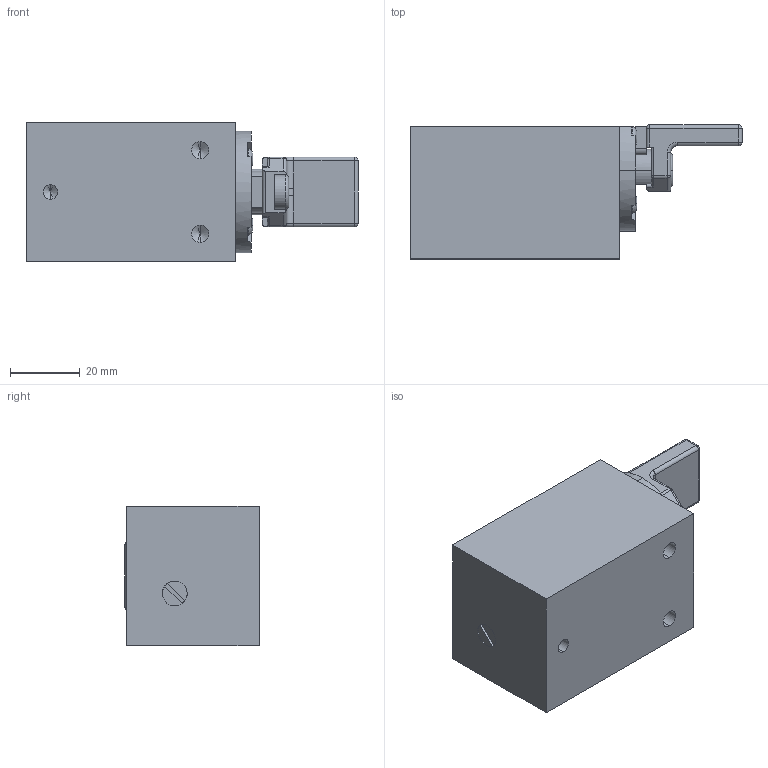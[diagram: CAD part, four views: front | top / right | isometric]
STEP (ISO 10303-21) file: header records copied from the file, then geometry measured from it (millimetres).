
FILE_DESCRIPTION (( 'STEP AP203' ), '1' );
FILE_NAME ('DBSQ-20-60-W.STEP', '2017-01-19T12:44:25', ( 'test' ), ( '' ), 'SwSTEP 2.0', 'SolidWorks 2016', '' );
FILE_SCHEMA (( 'CONFIG_CONTROL_DESIGN' ));
Length unit declared in the file: millimetre
Products named in the file (1): DBSQ-20-60-W
Bounding box: 95.3 x 38.5 x 40 mm (x, y, z)
Volume: 99789.5 mm3; surface area: 15997.3 mm2
Topology: 1 solids, 2 shells, 187 faces, 485 edges, 298 vertices
Faces by surface type: plane 95, cylinder 63, torus 14, sphere 8, cone 6, bspline 1
Entity records: 5766 total; most frequent: CARTESIAN_POINT 1150, DIRECTION 965, ORIENTED_EDGE 946, EDGE_CURVE 473, AXIS2_PLACEMENT_3D 346, VERTEX_POINT 298, LINE 273, VECTOR 273
